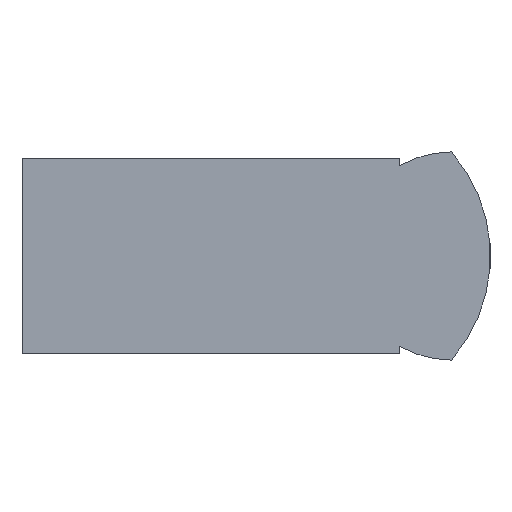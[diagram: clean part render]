
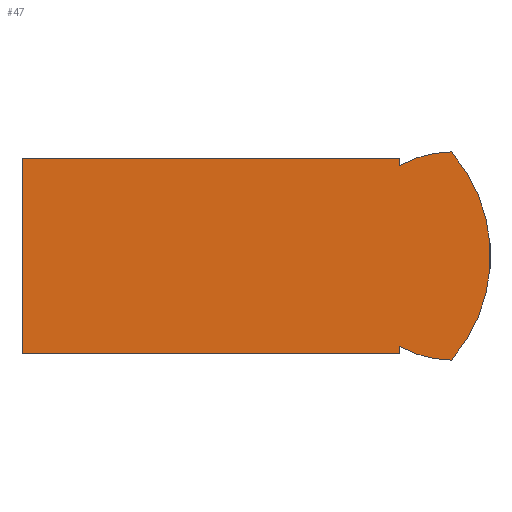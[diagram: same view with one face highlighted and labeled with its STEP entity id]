
A CAD part, left-side view. The second image highlights one B-rep face of the part: STEP entity #47.
In plain terms, the highlighted planar face has unit normal (-1, 0, 0).
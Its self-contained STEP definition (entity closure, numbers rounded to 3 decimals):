
#47 = ADVANCED_FACE( '', ( #107 ), #108, .F. );
#107 = FACE_OUTER_BOUND( '', #182, .T. );
#108 = PLANE( '', #183 );
#182 = EDGE_LOOP( '', ( #253, #254, #255, #256, #257, #258, #259, #260 ) );
#183 = AXIS2_PLACEMENT_3D( '', #261, #262, #263 );
#253 = ORIENTED_EDGE( '', *, *, #426, .F. );
#254 = ORIENTED_EDGE( '', *, *, #427, .T. );
#255 = ORIENTED_EDGE( '', *, *, #428, .T. );
#256 = ORIENTED_EDGE( '', *, *, #429, .F. );
#257 = ORIENTED_EDGE( '', *, *, #430, .F. );
#258 = ORIENTED_EDGE( '', *, *, #431, .T. );
#259 = ORIENTED_EDGE( '', *, *, #432, .F. );
#260 = ORIENTED_EDGE( '', *, *, #433, .F. );
#261 = CARTESIAN_POINT( '', ( -6., -28.416, 0. ) );
#262 = DIRECTION( '', ( 1., 0., 0. ) );
#263 = DIRECTION( '', ( 0., 0., -1. ) );
#426 = EDGE_CURVE( '', #494, #495, #496, .T. );
#427 = EDGE_CURVE( '', #494, #497, #498, .T. );
#428 = EDGE_CURVE( '', #497, #499, #500, .T. );
#429 = EDGE_CURVE( '', #501, #499, #502, .T. );
#430 = EDGE_CURVE( '', #503, #501, #504, .T. );
#431 = EDGE_CURVE( '', #503, #505, #506, .T. );
#432 = EDGE_CURVE( '', #507, #505, #508, .T. );
#433 = EDGE_CURVE( '', #495, #507, #509, .T. );
#494 = VERTEX_POINT( '', #593 );
#495 = VERTEX_POINT( '', #594 );
#496 = CIRCLE( '', #595, 8. );
#497 = VERTEX_POINT( '', #596 );
#498 = LINE( '', #597, #598 );
#499 = VERTEX_POINT( '', #599 );
#500 = LINE( '', #600, #601 );
#501 = VERTEX_POINT( '', #602 );
#502 = LINE( '', #603, #604 );
#503 = VERTEX_POINT( '', #605 );
#504 = LINE( '', #606, #607 );
#505 = VERTEX_POINT( '', #608 );
#506 = LINE( '', #609, #610 );
#507 = VERTEX_POINT( '', #611 );
#508 = CIRCLE( '', #612, 8. );
#509 = CIRCLE( '', #613, 12.167 );
#593 = CARTESIAN_POINT( '', ( -6., -29., 6.928 ) );
#594 = CARTESIAN_POINT( '', ( -6., -33., 8. ) );
#595 = AXIS2_PLACEMENT_3D( '', #725, #726, #727 );
#596 = CARTESIAN_POINT( '', ( -6., -29., 7.5 ) );
#597 = CARTESIAN_POINT( '', ( -6., -29., -7.5 ) );
#598 = VECTOR( '', #728, 1000. );
#599 = CARTESIAN_POINT( '', ( -6., 0., 7.5 ) );
#600 = CARTESIAN_POINT( '', ( -6., -29., 7.5 ) );
#601 = VECTOR( '', #729, 1000. );
#602 = CARTESIAN_POINT( '', ( -6., 0., -7.5 ) );
#603 = CARTESIAN_POINT( '', ( -6., 0., -7.5 ) );
#604 = VECTOR( '', #730, 1000. );
#605 = CARTESIAN_POINT( '', ( -6., -29., -7.5 ) );
#606 = CARTESIAN_POINT( '', ( -6., -29., -7.5 ) );
#607 = VECTOR( '', #731, 1000. );
#608 = CARTESIAN_POINT( '', ( -6., -29., -6.928 ) );
#609 = CARTESIAN_POINT( '', ( -6., -29., -7.5 ) );
#610 = VECTOR( '', #732, 1000. );
#611 = CARTESIAN_POINT( '', ( -6., -33., -8. ) );
#612 = AXIS2_PLACEMENT_3D( '', #733, #734, #735 );
#613 = AXIS2_PLACEMENT_3D( '', #736, #737, #738 );
#725 = CARTESIAN_POINT( '', ( -6., -33., 0. ) );
#726 = DIRECTION( '', ( 1., 0., 0. ) );
#727 = DIRECTION( '', ( 0., 0., -1. ) );
#728 = DIRECTION( '', ( 0., 0., 1. ) );
#729 = DIRECTION( '', ( 0., 1., 0. ) );
#730 = DIRECTION( '', ( 0., 0., 1. ) );
#731 = DIRECTION( '', ( 0., 1., 0. ) );
#732 = DIRECTION( '', ( 0., 0., 1. ) );
#733 = CARTESIAN_POINT( '', ( -6., -33., 0. ) );
#734 = DIRECTION( '', ( 1., 0., 0. ) );
#735 = DIRECTION( '', ( 0., 0., -1. ) );
#736 = CARTESIAN_POINT( '', ( -6., -23.833, 0. ) );
#737 = DIRECTION( '', ( 1., 0., 0. ) );
#738 = DIRECTION( '', ( 0., 0., -1. ) );
